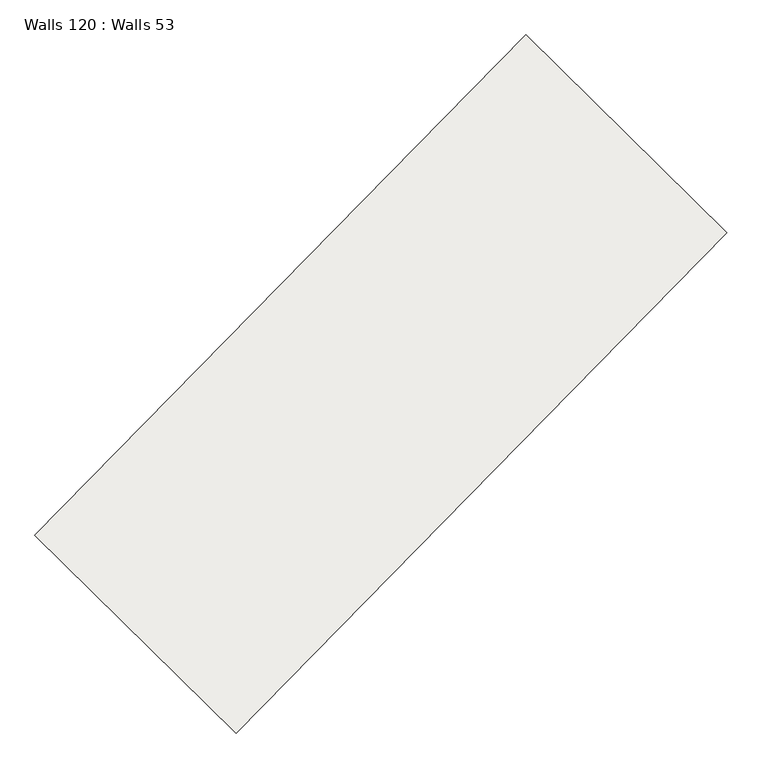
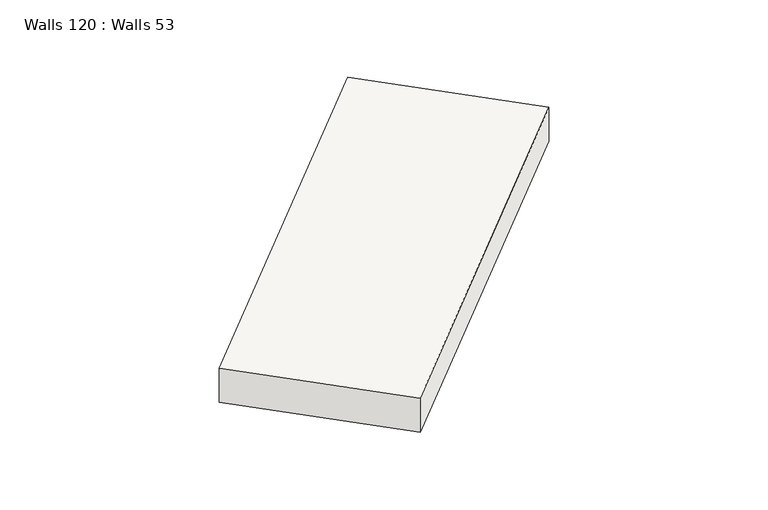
"""IFC4 building model written with IfcOpenShell, lengths in millimetres: slab geometry, Walls 120 : Walls 53."""

from ifc_helpers import new_model, si_unit, frame, origin, place, context, project, spatial, polyline, outline, extrude, source, transform, mapped, element, save


def walls_120_walls_53_87094d5d(model_context):
    return source(origin(), model_context, "Body", "SweptSolid", [
        extrude(outline(polyline([(-350.0, 0.0), (350.0, 0.0), (260.0, -8699.9999996), (-440.0, -8699.9999996), (-350.0, 0.0)])), frame((-60957.6415226, -221319.1541593, 637560.0), z_axis=(-0.7137361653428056, 0.7004146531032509, 0.0), x_axis=(0.0, 0.0, 1.0)), (0.0, 0.0, 1.0), 3499.999995),
    ])


if __name__ == "__main__":
    model = new_model("IFC4")
    model_context = context("Model", 3, world=origin())
    ifc_project = project(units=[si_unit("LENGTHUNIT", "METRE", prefix="MILLI")], contexts=[model_context])
    site = spatial("IfcSite", under=ifc_project)
    building = spatial("IfcBuilding", under=site)
    placement = place(None, origin())
    walls_120_walls_53_shape = walls_120_walls_53_87094d5d(model_context)
    element("IfcSlab", 1, ObjectType="Walls 120 : Walls 53", at=placement, inside=building, context=model_context, shape_type="MappedRepresentation", body=[
        mapped(walls_120_walls_53_shape, transform((0.0, 0.0, 0.0), x_axis=(1.0, 0.0, 0.0), y_axis=(0.0, 1.0, 0.0), z_axis=(0.0, 0.0, 1.0))),
    ])
    save(model, "model.ifc")
